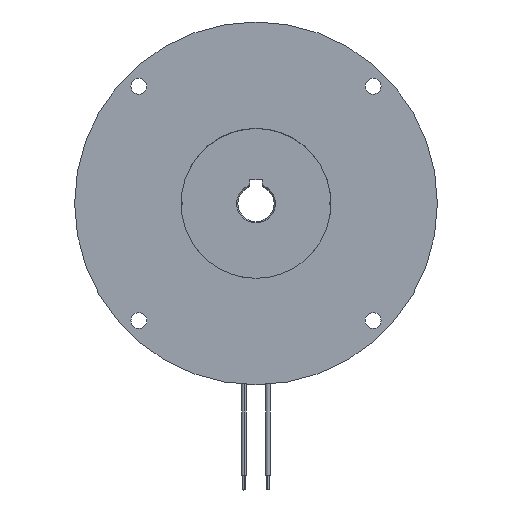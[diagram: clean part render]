
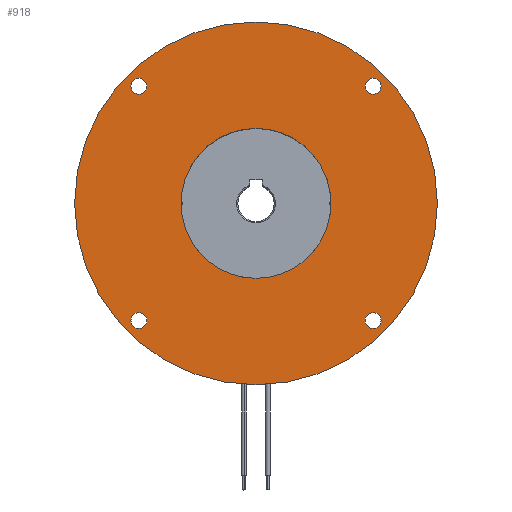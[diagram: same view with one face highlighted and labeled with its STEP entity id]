
A CAD part, top view. The second image highlights one B-rep face of the part: STEP entity #918.
In plain terms, the highlighted planar face has unit normal (0, 0, 1).
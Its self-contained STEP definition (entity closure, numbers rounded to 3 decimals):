
#27 = ORIENTED_EDGE ( 'NONE', *, *, #9368, .F. ) ;
#81 = FACE_BOUND ( 'NONE', #632, .T. ) ;
#268 = VERTEX_POINT ( 'NONE', #9876 ) ;
#364 = CARTESIAN_POINT ( 'NONE',  ( -51.737, 48.437, 0. ) ) ;
#517 = CIRCLE ( 'NONE', #12584, 75. ) ;
#632 = EDGE_LOOP ( 'NONE', ( #19380, #9100 ) ) ;
#667 = ORIENTED_EDGE ( 'NONE', *, *, #6001, .T. ) ;
#696 = CIRCLE ( 'NONE', #6890, 31. ) ;
#743 = EDGE_CURVE ( 'NONE', #17151, #21286, #1643, .T. ) ;
#918 = ADVANCED_FACE ( 'NONE', ( #11039, #11291, #14690, #24067, #16752, #81 ), #21708, .F. ) ;
#1265 = AXIS2_PLACEMENT_3D ( 'NONE', #13153, #20564, #6424 ) ;
#1492 = ORIENTED_EDGE ( 'NONE', *, *, #8503, .T. ) ;
#1609 = CARTESIAN_POINT ( 'NONE',  ( -48.437, 48.437, 0. ) ) ;
#1643 = CIRCLE ( 'NONE', #1265, 75. ) ;
#2317 = CARTESIAN_POINT ( 'NONE',  ( -51.737, -48.437, 0. ) ) ;
#2366 = CIRCLE ( 'NONE', #3519, 3.3 ) ;
#3048 = ORIENTED_EDGE ( 'NONE', *, *, #743, .F. ) ;
#3234 = CARTESIAN_POINT ( 'NONE',  ( 0., 0., 0. ) ) ;
#3259 = DIRECTION ( 'NONE',  ( -1., 0., 0. ) ) ;
#3285 = CARTESIAN_POINT ( 'NONE',  ( 51.737, 48.437, 0. ) ) ;
#3519 = AXIS2_PLACEMENT_3D ( 'NONE', #16864, #14681, #21978 ) ;
#3599 = DIRECTION ( 'NONE',  ( 0., 0., -1. ) ) ;
#3685 = ORIENTED_EDGE ( 'NONE', *, *, #17344, .T. ) ;
#3778 = CIRCLE ( 'NONE', #23614, 31. ) ;
#4240 = DIRECTION ( 'NONE',  ( 0., 0., -1. ) ) ;
#4482 = ORIENTED_EDGE ( 'NONE', *, *, #4779, .T. ) ;
#4779 = EDGE_CURVE ( 'NONE', #6645, #17333, #2366, .T. ) ;
#4782 = DIRECTION ( 'NONE',  ( 0., 0., -1. ) ) ;
#4882 = ORIENTED_EDGE ( 'NONE', *, *, #6202, .T. ) ;
#4900 = DIRECTION ( 'NONE',  ( -1., 0., 0. ) ) ;
#5164 = DIRECTION ( 'NONE',  ( 0., 0., -1. ) ) ;
#5697 = CARTESIAN_POINT ( 'NONE',  ( -48.437, 48.437, 0. ) ) ;
#5740 = AXIS2_PLACEMENT_3D ( 'NONE', #15356, #13421, #11348 ) ;
#5832 = DIRECTION ( 'NONE',  ( -1., 0., 0. ) ) ;
#5882 = VERTEX_POINT ( 'NONE', #3285 ) ;
#6001 = EDGE_CURVE ( 'NONE', #14600, #20352, #15078, .T. ) ;
#6202 = EDGE_CURVE ( 'NONE', #20352, #14600, #20902, .T. ) ;
#6424 = DIRECTION ( 'NONE',  ( -1., 0., 0. ) ) ;
#6645 = VERTEX_POINT ( 'NONE', #24034 ) ;
#6890 = AXIS2_PLACEMENT_3D ( 'NONE', #15092, #11193, #5832 ) ;
#7493 = DIRECTION ( 'NONE',  ( -1., 0., 0. ) ) ;
#7777 = DIRECTION ( 'NONE',  ( -1., 0., 0. ) ) ;
#8115 = CARTESIAN_POINT ( 'NONE',  ( -45.137, -48.437, 0. ) ) ;
#8153 = EDGE_LOOP ( 'NONE', ( #9674, #14051 ) ) ;
#8503 = EDGE_CURVE ( 'NONE', #17333, #6645, #18754, .T. ) ;
#8760 = CIRCLE ( 'NONE', #15768, 3.3 ) ;
#9100 = ORIENTED_EDGE ( 'NONE', *, *, #11696, .T. ) ;
#9368 = EDGE_CURVE ( 'NONE', #21286, #17151, #517, .T. ) ;
#9427 = AXIS2_PLACEMENT_3D ( 'NONE', #23770, #4782, #4900 ) ;
#9636 = AXIS2_PLACEMENT_3D ( 'NONE', #9816, #13612, #7493 ) ;
#9674 = ORIENTED_EDGE ( 'NONE', *, *, #12167, .T. ) ;
#9816 = CARTESIAN_POINT ( 'NONE',  ( 48.437, 48.437, 0. ) ) ;
#9876 = CARTESIAN_POINT ( 'NONE',  ( 45.137, 48.437, 0. ) ) ;
#10023 = CIRCLE ( 'NONE', #20095, 3.3 ) ;
#10052 = CARTESIAN_POINT ( 'NONE',  ( -31., 0., 0. ) ) ;
#10120 = EDGE_LOOP ( 'NONE', ( #16312, #3685 ) ) ;
#10284 = EDGE_LOOP ( 'NONE', ( #4482, #1492 ) ) ;
#11039 = FACE_BOUND ( 'NONE', #8153, .T. ) ;
#11044 = DIRECTION ( 'NONE',  ( -1., 0., 0. ) ) ;
#11193 = DIRECTION ( 'NONE',  ( 0., 0., -1. ) ) ;
#11291 = FACE_BOUND ( 'NONE', #10284, .T. ) ;
#11348 = DIRECTION ( 'NONE',  ( -1., 0., 0. ) ) ;
#11636 = VERTEX_POINT ( 'NONE', #23022 ) ;
#11696 = EDGE_CURVE ( 'NONE', #15955, #13091, #3778, .T. ) ;
#11785 = EDGE_CURVE ( 'NONE', #13091, #15955, #696, .T. ) ;
#11786 = VERTEX_POINT ( 'NONE', #364 ) ;
#12156 = CARTESIAN_POINT ( 'NONE',  ( 48.437, -48.437, 0. ) ) ;
#12167 = EDGE_CURVE ( 'NONE', #268, #5882, #10023, .T. ) ;
#12349 = AXIS2_PLACEMENT_3D ( 'NONE', #5697, #4240, #7777 ) ;
#12495 = CARTESIAN_POINT ( 'NONE',  ( 48.437, 48.437, 0. ) ) ;
#12584 = AXIS2_PLACEMENT_3D ( 'NONE', #3234, #18329, #18213 ) ;
#13091 = VERTEX_POINT ( 'NONE', #10052 ) ;
#13153 = CARTESIAN_POINT ( 'NONE',  ( 0., 0., 0. ) ) ;
#13421 = DIRECTION ( 'NONE',  ( 0., 0., -1. ) ) ;
#13528 = AXIS2_PLACEMENT_3D ( 'NONE', #18452, #3599, #11044 ) ;
#13612 = DIRECTION ( 'NONE',  ( 0., 0., -1. ) ) ;
#14012 = EDGE_LOOP ( 'NONE', ( #3048, #27 ) ) ;
#14051 = ORIENTED_EDGE ( 'NONE', *, *, #22664, .T. ) ;
#14583 = CARTESIAN_POINT ( 'NONE',  ( 75., 0., 0. ) ) ;
#14600 = VERTEX_POINT ( 'NONE', #2317 ) ;
#14681 = DIRECTION ( 'NONE',  ( 0., 0., -1. ) ) ;
#14690 = FACE_BOUND ( 'NONE', #18144, .T. ) ;
#15078 = CIRCLE ( 'NONE', #5740, 3.3 ) ;
#15092 = CARTESIAN_POINT ( 'NONE',  ( 0., 0., 0. ) ) ;
#15356 = CARTESIAN_POINT ( 'NONE',  ( -48.437, -48.437, 0. ) ) ;
#15597 = CARTESIAN_POINT ( 'NONE',  ( 0., 0., 0. ) ) ;
#15660 = CARTESIAN_POINT ( 'NONE',  ( 31., 0., 0. ) ) ;
#15768 = AXIS2_PLACEMENT_3D ( 'NONE', #1609, #16571, #22295 ) ;
#15838 = CIRCLE ( 'NONE', #9636, 3.3 ) ;
#15955 = VERTEX_POINT ( 'NONE', #15660 ) ;
#16312 = ORIENTED_EDGE ( 'NONE', *, *, #22377, .T. ) ;
#16571 = DIRECTION ( 'NONE',  ( 0., 0., -1. ) ) ;
#16752 = FACE_OUTER_BOUND ( 'NONE', #14012, .T. ) ;
#16864 = CARTESIAN_POINT ( 'NONE',  ( 48.437, -48.437, 0. ) ) ;
#17151 = VERTEX_POINT ( 'NONE', #23408 ) ;
#17333 = VERTEX_POINT ( 'NONE', #18152 ) ;
#17344 = EDGE_CURVE ( 'NONE', #11636, #11786, #8760, .T. ) ;
#18144 = EDGE_LOOP ( 'NONE', ( #667, #4882 ) ) ;
#18152 = CARTESIAN_POINT ( 'NONE',  ( 51.737, -48.437, 0. ) ) ;
#18213 = DIRECTION ( 'NONE',  ( -1., 0., 0. ) ) ;
#18329 = DIRECTION ( 'NONE',  ( 0., 0., -1. ) ) ;
#18452 = CARTESIAN_POINT ( 'NONE',  ( -48.437, -48.437, 0. ) ) ;
#18754 = CIRCLE ( 'NONE', #23824, 3.3 ) ;
#19370 = DIRECTION ( 'NONE',  ( 0., 0., -1. ) ) ;
#19380 = ORIENTED_EDGE ( 'NONE', *, *, #11785, .T. ) ;
#19450 = DIRECTION ( 'NONE',  ( 0., 0., -1. ) ) ;
#20095 = AXIS2_PLACEMENT_3D ( 'NONE', #12495, #5164, #21482 ) ;
#20352 = VERTEX_POINT ( 'NONE', #8115 ) ;
#20564 = DIRECTION ( 'NONE',  ( 0., 0., -1. ) ) ;
#20902 = CIRCLE ( 'NONE', #13528, 3.3 ) ;
#21286 = VERTEX_POINT ( 'NONE', #14583 ) ;
#21482 = DIRECTION ( 'NONE',  ( -1., 0., 0. ) ) ;
#21708 = PLANE ( 'NONE',  #9427 ) ;
#21978 = DIRECTION ( 'NONE',  ( -1., 0., 0. ) ) ;
#22295 = DIRECTION ( 'NONE',  ( -1., 0., 0. ) ) ;
#22377 = EDGE_CURVE ( 'NONE', #11786, #11636, #22838, .T. ) ;
#22664 = EDGE_CURVE ( 'NONE', #5882, #268, #15838, .T. ) ;
#22838 = CIRCLE ( 'NONE', #12349, 3.3 ) ;
#22992 = DIRECTION ( 'NONE',  ( -1., 0., 0. ) ) ;
#23022 = CARTESIAN_POINT ( 'NONE',  ( -45.137, 48.437, 0. ) ) ;
#23408 = CARTESIAN_POINT ( 'NONE',  ( -75., 0., 0. ) ) ;
#23614 = AXIS2_PLACEMENT_3D ( 'NONE', #15597, #19370, #3259 ) ;
#23770 = CARTESIAN_POINT ( 'NONE',  ( 0., 75., 0. ) ) ;
#23824 = AXIS2_PLACEMENT_3D ( 'NONE', #12156, #19450, #22992 ) ;
#24034 = CARTESIAN_POINT ( 'NONE',  ( 45.137, -48.437, 0. ) ) ;
#24067 = FACE_BOUND ( 'NONE', #10120, .T. ) ;
